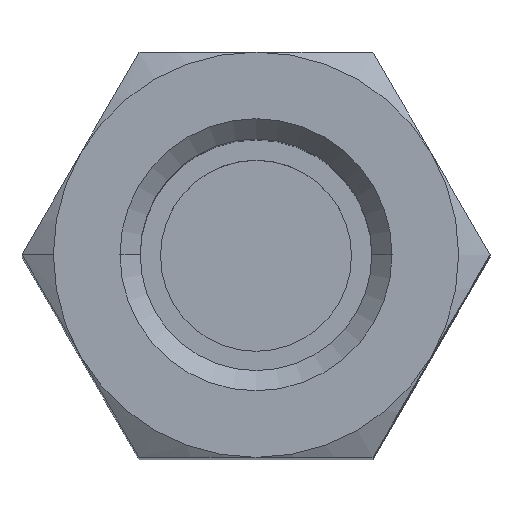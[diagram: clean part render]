
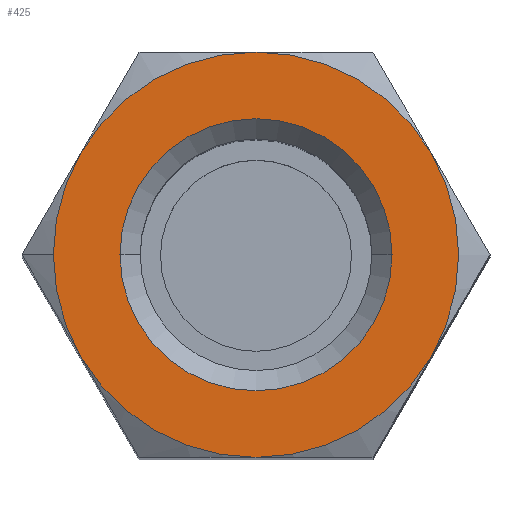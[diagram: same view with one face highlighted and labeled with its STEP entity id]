
A CAD part, top view. The second image highlights one B-rep face of the part: STEP entity #425.
In plain terms, the highlighted planar face has unit normal (0, 0, 1).
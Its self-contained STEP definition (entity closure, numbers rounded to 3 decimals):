
#1 = CIRCLE ( 'NONE', #1056, 3.5 ) ;
#19 = AXIS2_PLACEMENT_3D ( 'NONE', #309, #110, #587 ) ;
#40 = AXIS2_PLACEMENT_3D ( 'NONE', #526, #860, #353 ) ;
#56 = EDGE_CURVE ( 'NONE', #916, #422, #267, .T. ) ;
#63 = ORIENTED_EDGE ( 'NONE', *, *, #82, .T. ) ;
#75 = ORIENTED_EDGE ( 'NONE', *, *, #56, .T. ) ;
#82 = EDGE_CURVE ( 'NONE', #351, #695, #941, .T. ) ;
#92 = EDGE_CURVE ( 'NONE', #617, #1081, #735, .T. ) ;
#93 = DIRECTION ( 'NONE',  ( 0., 0., -1. ) ) ;
#110 = DIRECTION ( 'NONE',  ( 0., 0., -1. ) ) ;
#121 = DIRECTION ( 'NONE',  ( -1., 0., 0. ) ) ;
#136 = VERTEX_POINT ( 'NONE', #392 ) ;
#137 = CARTESIAN_POINT ( 'NONE',  ( 0., 0., 12.5 ) ) ;
#156 = EDGE_LOOP ( 'NONE', ( #1116, #536, #63, #1111, #674, #175, #606 ) ) ;
#157 = DIRECTION ( 'NONE',  ( 1., 0., 0. ) ) ;
#175 = ORIENTED_EDGE ( 'NONE', *, *, #1032, .T. ) ;
#189 = CIRCLE ( 'NONE', #341, 2.35 ) ;
#203 = CARTESIAN_POINT ( 'NONE',  ( 0., 0., 12.5 ) ) ;
#209 = AXIS2_PLACEMENT_3D ( 'NONE', #203, #804, #379 ) ;
#240 = CARTESIAN_POINT ( 'NONE',  ( 0., 0., 12.5 ) ) ;
#252 = EDGE_LOOP ( 'NONE', ( #75, #633 ) ) ;
#267 = CIRCLE ( 'NONE', #357, 2.35 ) ;
#275 = CARTESIAN_POINT ( 'NONE',  ( -3.031, -1.75, 12.5 ) ) ;
#303 = CIRCLE ( 'NONE', #209, 3.5 ) ;
#309 = CARTESIAN_POINT ( 'NONE',  ( 0., 0., 12.5 ) ) ;
#325 = EDGE_CURVE ( 'NONE', #422, #916, #189, .T. ) ;
#341 = AXIS2_PLACEMENT_3D ( 'NONE', #1148, #93, #513 ) ;
#342 = CARTESIAN_POINT ( 'NONE',  ( -2.35, 0., 12.5 ) ) ;
#350 = EDGE_CURVE ( 'NONE', #136, #351, #1, .T. ) ;
#351 = VERTEX_POINT ( 'NONE', #275 ) ;
#353 = DIRECTION ( 'NONE',  ( -1., 0., 0. ) ) ;
#357 = AXIS2_PLACEMENT_3D ( 'NONE', #137, #577, #401 ) ;
#379 = DIRECTION ( 'NONE',  ( -1., 0., 0. ) ) ;
#392 = CARTESIAN_POINT ( 'NONE',  ( -3.5, 0., 12.5 ) ) ;
#401 = DIRECTION ( 'NONE',  ( -1., 0., 0. ) ) ;
#413 = DIRECTION ( 'NONE',  ( -1., 0., 0. ) ) ;
#421 = CARTESIAN_POINT ( 'NONE',  ( 2.35, 0., 12.5 ) ) ;
#422 = VERTEX_POINT ( 'NONE', #342 ) ;
#425 = ADVANCED_FACE ( 'NONE', ( #946, #1052 ), #609, .F. ) ;
#429 = DIRECTION ( 'NONE',  ( -1., 0., 0. ) ) ;
#443 = CARTESIAN_POINT ( 'NONE',  ( 0., 0., 12.5 ) ) ;
#452 = DIRECTION ( 'NONE',  ( 0., 0., 1. ) ) ;
#513 = DIRECTION ( 'NONE',  ( -1., 0., 0. ) ) ;
#526 = CARTESIAN_POINT ( 'NONE',  ( 0., 0., 12.5 ) ) ;
#534 = CARTESIAN_POINT ( 'NONE',  ( 3.031, 1.75, 12.5 ) ) ;
#536 = ORIENTED_EDGE ( 'NONE', *, *, #350, .T. ) ;
#577 = DIRECTION ( 'NONE',  ( 0., 0., -1. ) ) ;
#585 = DIRECTION ( 'NONE',  ( 0., 0., 1. ) ) ;
#587 = DIRECTION ( 'NONE',  ( -1., 0., 0. ) ) ;
#606 = ORIENTED_EDGE ( 'NONE', *, *, #837, .F. ) ;
#608 = CIRCLE ( 'NONE', #850, 3.5 ) ;
#609 = PLANE ( 'NONE',  #867 ) ;
#617 = VERTEX_POINT ( 'NONE', #825 ) ;
#633 = ORIENTED_EDGE ( 'NONE', *, *, #325, .T. ) ;
#674 = ORIENTED_EDGE ( 'NONE', *, *, #92, .T. ) ;
#688 = EDGE_CURVE ( 'NONE', #695, #617, #303, .T. ) ;
#695 = VERTEX_POINT ( 'NONE', #1079 ) ;
#696 = CARTESIAN_POINT ( 'NONE',  ( 0., 0., 12.5 ) ) ;
#717 = AXIS2_PLACEMENT_3D ( 'NONE', #1112, #1007, #121 ) ;
#721 = CIRCLE ( 'NONE', #19, 3.5 ) ;
#735 = CIRCLE ( 'NONE', #717, 3.5 ) ;
#770 = VERTEX_POINT ( 'NONE', #807 ) ;
#792 = AXIS2_PLACEMENT_3D ( 'NONE', #240, #585, #413 ) ;
#796 = DIRECTION ( 'NONE',  ( 0., 0., -1. ) ) ;
#804 = DIRECTION ( 'NONE',  ( 0., 0., 1. ) ) ;
#807 = CARTESIAN_POINT ( 'NONE',  ( 0., 3.5, 12.5 ) ) ;
#825 = CARTESIAN_POINT ( 'NONE',  ( 3.031, -1.75, 12.5 ) ) ;
#837 = EDGE_CURVE ( 'NONE', #1024, #770, #721, .T. ) ;
#850 = AXIS2_PLACEMENT_3D ( 'NONE', #443, #871, #1145 ) ;
#859 = CARTESIAN_POINT ( 'NONE',  ( 0., 0., 12.5 ) ) ;
#860 = DIRECTION ( 'NONE',  ( 0., 0., 1. ) ) ;
#867 = AXIS2_PLACEMENT_3D ( 'NONE', #859, #796, #157 ) ;
#871 = DIRECTION ( 'NONE',  ( 0., 0., 1. ) ) ;
#916 = VERTEX_POINT ( 'NONE', #421 ) ;
#941 = CIRCLE ( 'NONE', #792, 3.5 ) ;
#946 = FACE_BOUND ( 'NONE', #252, .T. ) ;
#958 = EDGE_CURVE ( 'NONE', #1024, #136, #608, .T. ) ;
#970 = CARTESIAN_POINT ( 'NONE',  ( -3.031, 1.75, 12.5 ) ) ;
#1007 = DIRECTION ( 'NONE',  ( 0., 0., 1. ) ) ;
#1024 = VERTEX_POINT ( 'NONE', #970 ) ;
#1032 = EDGE_CURVE ( 'NONE', #1081, #770, #1058, .T. ) ;
#1052 = FACE_OUTER_BOUND ( 'NONE', #156, .T. ) ;
#1056 = AXIS2_PLACEMENT_3D ( 'NONE', #696, #452, #429 ) ;
#1058 = CIRCLE ( 'NONE', #40, 3.5 ) ;
#1079 = CARTESIAN_POINT ( 'NONE',  ( 0., -3.5, 12.5 ) ) ;
#1081 = VERTEX_POINT ( 'NONE', #534 ) ;
#1111 = ORIENTED_EDGE ( 'NONE', *, *, #688, .T. ) ;
#1112 = CARTESIAN_POINT ( 'NONE',  ( 0., 0., 12.5 ) ) ;
#1116 = ORIENTED_EDGE ( 'NONE', *, *, #958, .T. ) ;
#1145 = DIRECTION ( 'NONE',  ( -1., 0., 0. ) ) ;
#1148 = CARTESIAN_POINT ( 'NONE',  ( 0., 0., 12.5 ) ) ;
